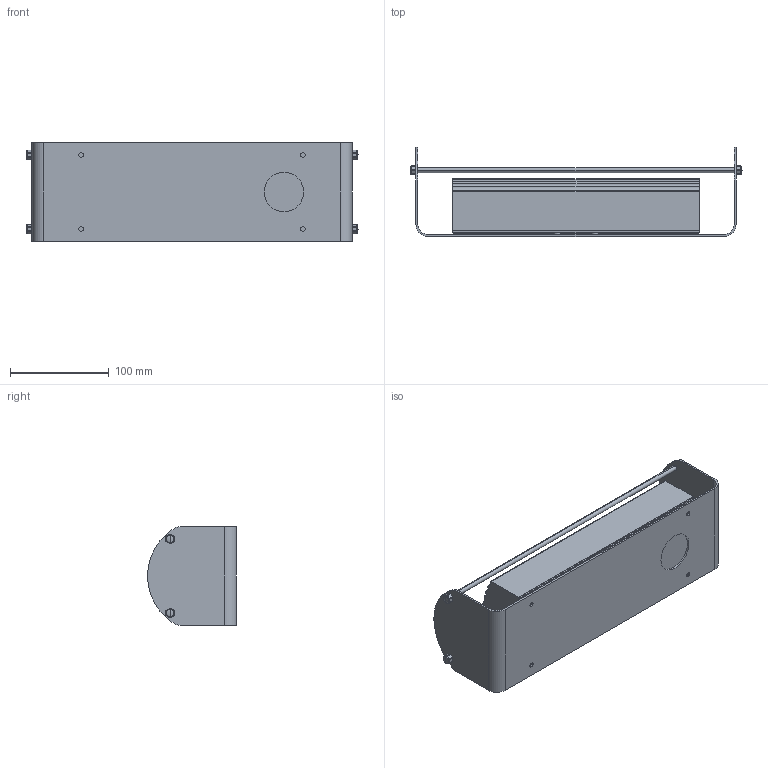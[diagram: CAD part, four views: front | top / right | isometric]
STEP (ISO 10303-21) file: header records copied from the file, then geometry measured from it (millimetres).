
FILE_DESCRIPTION((''),'2;1');
FILE_NAME('GLOW_100_LAMIERA_ASM','2026-06-03T16:00:52',('Manenti'),(''),'CREO PARAMETRIC BY PTC INC, 2025010','CREO PARAMETRIC BY PTC INC, 2025010','');
FILE_SCHEMA(('CONFIG_CONTROL_DESIGN'));
Length unit declared in the file: millimetre
Products named in the file (7): ASM0005_ASM_1_1_ASM_1_ASM; ART_ACCESSORIO_LAMIERA_1; ASTA_ACCESSORIO_LAMIERA_1; TAPPO_ACCESSORIO_LAMIERA_1; GLOW_ACCESSORIO_LAMIERA_2_ASM_1_ASM; GLOW_100_MASK_ASM_1_ASM; GLOW_100_LAMIERA_ASM
Assembly tree (10 placements, depth 4):
  GLOW_100_LAMIERA_ASM
    GLOW_100_MASK_ASM_1_ASM
      ASM0005_ASM_1_1_ASM_1_ASM
      GLOW_ACCESSORIO_LAMIERA_2_ASM_1_ASM
        ART_ACCESSORIO_LAMIERA_1
        ASTA_ACCESSORIO_LAMIERA_1  x2
        TAPPO_ACCESSORIO_LAMIERA_1  x4
Bounding box: 336 x 90 x 100 mm (x, y, z)
Volume: 106026.4 mm3; surface area: 192197.7 mm2
Topology: 7 solids, 38 shells, 431 faces, 1257 edges, 886 vertices
Faces by surface type: cylinder 143, plane 90, bspline 90, sphere 60, cone 24, torus 16, revolution 8
Entity records: 16711 total; most frequent: CARTESIAN_POINT 8721, DIRECTION 1632, ORIENTED_EDGE 1454, EDGE_CURVE 868, AXIS2_PLACEMENT_3D 664, VERTEX_POINT 578, CIRCLE 367, EDGE_LOOP 341
